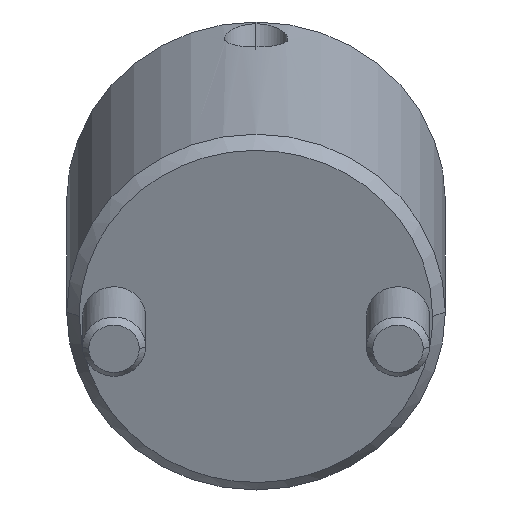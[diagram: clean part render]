
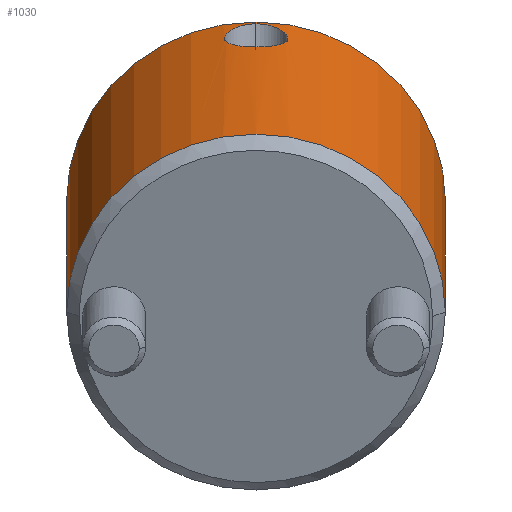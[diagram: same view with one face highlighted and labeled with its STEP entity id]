
A CAD part, front view. The second image highlights one B-rep face of the part: STEP entity #1030.
In plain terms, the highlighted cylindrical face has radius 15 mm (diameter 30 mm), a partial arc.
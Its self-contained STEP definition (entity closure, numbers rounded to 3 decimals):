
#787=CARTESIAN_POINT('Vertex',(0.,15.,1.)) ;
#790=CARTESIAN_POINT('Axis2P3D Location',(0.,0.,1.)) ;
#794=CARTESIAN_POINT('Vertex',(0.,-15.,1.)) ;
#934=CARTESIAN_POINT('Axis2P3D Location',(0.,0.,-1.4)) ;
#939=CARTESIAN_POINT('Line Origine',(0.,15.,-1.4)) ;
#943=CARTESIAN_POINT('Vertex',(0.,15.,27.)) ;
#946=CARTESIAN_POINT('Axis2P3D Location',(0.,0.,27.)) ;
#950=CARTESIAN_POINT('Vertex',(0.,-15.,27.)) ;
#953=CARTESIAN_POINT('Line Origine',(0.,-15.,-1.4)) ;
#965=CARTESIAN_POINT('Control Point',(15.,0.,26.57)) ;
#966=CARTESIAN_POINT('Control Point',(15.,0.072,26.57)) ;
#967=CARTESIAN_POINT('Control Point',(15.,0.143,26.567)) ;
#968=CARTESIAN_POINT('Control Point',(14.999,0.215,26.562)) ;
#969=CARTESIAN_POINT('Control Point',(14.995,0.43,26.536)) ;
#970=CARTESIAN_POINT('Control Point',(14.987,0.644,26.482)) ;
#971=CARTESIAN_POINT('Control Point',(14.98,0.791,26.433)) ;
#972=CARTESIAN_POINT('Control Point',(14.963,1.068,26.315)) ;
#973=CARTESIAN_POINT('Control Point',(14.943,1.321,26.156)) ;
#974=CARTESIAN_POINT('Control Point',(14.931,1.446,26.063)) ;
#975=CARTESIAN_POINT('Control Point',(14.888,1.86,25.706)) ;
#976=CARTESIAN_POINT('Control Point',(14.842,2.185,25.238)) ;
#977=CARTESIAN_POINT('Control Point',(14.813,2.362,24.853)) ;
#978=CARTESIAN_POINT('Control Point',(14.779,2.566,24.037)) ;
#979=CARTESIAN_POINT('Control Point',(14.794,2.477,23.216)) ;
#980=CARTESIAN_POINT('Control Point',(14.815,2.36,22.828)) ;
#981=CARTESIAN_POINT('Control Point',(14.861,2.062,22.266)) ;
#982=CARTESIAN_POINT('Control Point',(14.914,1.62,21.831)) ;
#983=CARTESIAN_POINT('Control Point',(14.933,1.437,21.688)) ;
#984=CARTESIAN_POINT('Control Point',(14.961,1.112,21.49)) ;
#985=CARTESIAN_POINT('Control Point',(14.982,0.75,21.358)) ;
#986=CARTESIAN_POINT('Control Point',(14.989,0.597,21.315)) ;
#987=CARTESIAN_POINT('Control Point',(14.996,0.388,21.273)) ;
#988=CARTESIAN_POINT('Control Point',(14.999,0.179,21.254)) ;
#989=CARTESIAN_POINT('Control Point',(15.,0.12,21.251)) ;
#990=CARTESIAN_POINT('Control Point',(15.,0.06,21.249)) ;
#991=CARTESIAN_POINT('Control Point',(15.,0.,21.249)) ;
#992=CARTESIAN_POINT('Vertex',(15.,0.,26.57)) ;
#994=CARTESIAN_POINT('Vertex',(15.,0.,21.249)) ;
#998=CARTESIAN_POINT('Control Point',(15.,0.,21.249)) ;
#999=CARTESIAN_POINT('Control Point',(15.,-0.15,21.249)) ;
#1000=CARTESIAN_POINT('Control Point',(14.998,-0.3,21.26)) ;
#1001=CARTESIAN_POINT('Control Point',(14.994,-0.45,21.283)) ;
#1002=CARTESIAN_POINT('Control Point',(14.983,-0.75,21.353)) ;
#1003=CARTESIAN_POINT('Control Point',(14.965,-1.037,21.468)) ;
#1004=CARTESIAN_POINT('Control Point',(14.955,-1.172,21.535)) ;
#1005=CARTESIAN_POINT('Control Point',(14.91,-1.699,21.849)) ;
#1006=CARTESIAN_POINT('Control Point',(14.854,-2.117,22.318)) ;
#1007=CARTESIAN_POINT('Control Point',(14.816,-2.347,22.745)) ;
#1008=CARTESIAN_POINT('Control Point',(14.787,-2.517,23.376)) ;
#1009=CARTESIAN_POINT('Control Point',(14.79,-2.501,24.027)) ;
#1010=CARTESIAN_POINT('Control Point',(14.793,-2.484,24.194)) ;
#1011=CARTESIAN_POINT('Control Point',(14.805,-2.414,24.603)) ;
#1012=CARTESIAN_POINT('Control Point',(14.827,-2.273,24.995)) ;
#1013=CARTESIAN_POINT('Control Point',(14.844,-2.163,25.22)) ;
#1014=CARTESIAN_POINT('Control Point',(14.881,-1.904,25.631)) ;
#1015=CARTESIAN_POINT('Control Point',(14.919,-1.572,25.969)) ;
#1016=CARTESIAN_POINT('Control Point',(14.937,-1.389,26.118)) ;
#1017=CARTESIAN_POINT('Control Point',(14.959,-1.134,26.282)) ;
#1018=CARTESIAN_POINT('Control Point',(14.976,-0.853,26.403)) ;
#1019=CARTESIAN_POINT('Control Point',(14.98,-0.782,26.431)) ;
#1020=CARTESIAN_POINT('Control Point',(14.989,-0.587,26.497)) ;
#1021=CARTESIAN_POINT('Control Point',(14.996,-0.386,26.543)) ;
#1022=CARTESIAN_POINT('Control Point',(14.999,-0.258,26.561)) ;
#1023=CARTESIAN_POINT('Control Point',(15.,-0.13,26.57)) ;
#1024=CARTESIAN_POINT('Control Point',(15.,0.,26.57)) ;
#791=DIRECTION('Axis2P3D Direction',(0.,0.,1.)) ;
#935=DIRECTION('Axis2P3D Direction',(0.,-0.,1.)) ;
#936=DIRECTION('Axis2P3D XDirection',(0.,-1.,0.)) ;
#940=DIRECTION('Vector Direction',(0.,0.,1.)) ;
#947=DIRECTION('Axis2P3D Direction',(0.,-0.,1.)) ;
#954=DIRECTION('Vector Direction',(0.,0.,1.)) ;
#792=AXIS2_PLACEMENT_3D('Circle Axis2P3D',#790,#791,$) ;
#937=AXIS2_PLACEMENT_3D('Cylinder Axis2P3D',#934,#935,#936) ;
#948=AXIS2_PLACEMENT_3D('Circle Axis2P3D',#946,#947,$) ;
#959=ORIENTED_EDGE('',*,*,#945,.F.) ;
#960=ORIENTED_EDGE('',*,*,#952,.T.) ;
#961=ORIENTED_EDGE('',*,*,#957,.T.) ;
#962=ORIENTED_EDGE('',*,*,#796,.F.) ;
#1027=ORIENTED_EDGE('',*,*,#996,.T.) ;
#1028=ORIENTED_EDGE('',*,*,#1025,.T.) ;
#1029=FACE_BOUND('',#1026,.T.) ;
#941=VECTOR('Line Direction',#940,1.) ;
#955=VECTOR('Line Direction',#954,1.) ;
#1030=ADVANCED_FACE('MANIFOLD_SOLID_BREP #1110',(#963,#1029),#938,.T.) ;
#964=B_SPLINE_CURVE_WITH_KNOTS('',5,(#965,#966,#967,#968,#969,#970,#971,#972,#973,#974,#975,#976,#977,#978,#979,#980,#981,#982,#983,#984,#985,#986,#987,#988,#989,#990,#991),.UNSPECIFIED.,.F.,.U.,(6,3,3,3,3,3,3,3,6),(0.,0.522,1.585,2.689,5.532,8.315,9.952,11.041,11.476),.UNSPECIFIED.) ;
#997=B_SPLINE_CURVE_WITH_KNOTS('',5,(#998,#999,#1000,#1001,#1002,#1003,#1004,#1005,#1006,#1007,#1008,#1009,#1010,#1011,#1012,#1013,#1014,#1015,#1016,#1017,#1018,#1019,#1020,#1021,#1022,#1023,#1024),.UNSPECIFIED.,.F.,.U.,(6,3,3,3,3,3,3,3,6),(0.,1.099,2.195,5.529,6.659,8.361,10.015,10.551,11.487),.UNSPECIFIED.) ;
#793=CIRCLE('generated circle',#792,15.) ;
#949=CIRCLE('generated circle',#948,15.) ;
#938=CYLINDRICAL_SURFACE('generated cylinder',#937,15.) ;
#796=EDGE_CURVE('',#788,#795,#793,.F.) ;
#945=EDGE_CURVE('',#944,#788,#942,.F.) ;
#952=EDGE_CURVE('',#944,#951,#949,.F.) ;
#957=EDGE_CURVE('',#951,#795,#956,.F.) ;
#996=EDGE_CURVE('',#993,#995,#964,.T.) ;
#1025=EDGE_CURVE('',#995,#993,#997,.T.) ;
#958=EDGE_LOOP('',(#959,#960,#961,#962)) ;
#1026=EDGE_LOOP('',(#1027,#1028)) ;
#963=FACE_OUTER_BOUND('',#958,.T.) ;
#942=LINE('Line',#939,#941) ;
#956=LINE('Line',#953,#955) ;
#788=VERTEX_POINT('',#787) ;
#795=VERTEX_POINT('',#794) ;
#944=VERTEX_POINT('',#943) ;
#951=VERTEX_POINT('',#950) ;
#993=VERTEX_POINT('',#992) ;
#995=VERTEX_POINT('',#994) ;
